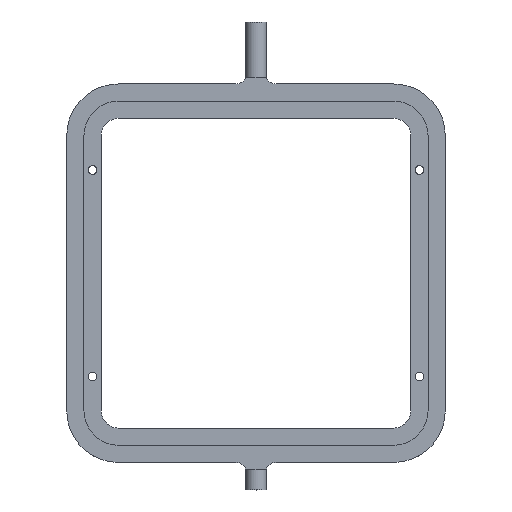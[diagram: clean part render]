
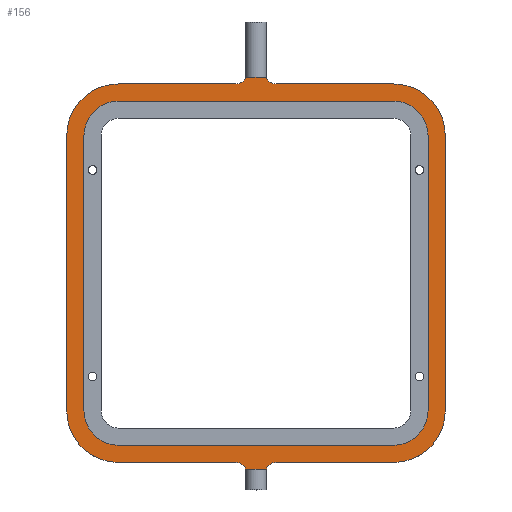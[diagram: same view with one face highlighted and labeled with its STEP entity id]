
A CAD part, top view. The second image highlights one B-rep face of the part: STEP entity #156.
In plain terms, the highlighted planar face has unit normal (0, 0, 1).
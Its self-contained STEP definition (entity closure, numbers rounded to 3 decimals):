
#76=FACE_BOUND('',#282,.T.);
#77=FACE_BOUND('',#283,.T.);
#118=CIRCLE('',#959,3.);
#119=CIRCLE('',#960,3.);
#120=CIRCLE('',#961,15.);
#121=CIRCLE('',#962,15.);
#122=CIRCLE('',#963,3.);
#123=CIRCLE('',#964,3.);
#124=CIRCLE('',#965,15.);
#125=CIRCLE('',#966,15.);
#126=CIRCLE('',#967,10.);
#127=CIRCLE('',#968,10.);
#128=CIRCLE('',#969,10.);
#129=CIRCLE('',#970,10.);
#156=ADVANCED_FACE('',(#76,#77),#205,.T.);
#205=PLANE('',#971);
#282=EDGE_LOOP('',(#428,#429,#430,#431,#432,#433,#434,#435,#436,#437,#438,
#439,#440,#441,#442,#443,#444,#445));
#283=EDGE_LOOP('',(#446,#447,#448,#449,#450,#451,#452,#453));
#428=ORIENTED_EDGE('',*,*,#650,.T.);
#429=ORIENTED_EDGE('',*,*,#736,.T.);
#430=ORIENTED_EDGE('',*,*,#737,.F.);
#431=ORIENTED_EDGE('',*,*,#738,.F.);
#432=ORIENTED_EDGE('',*,*,#739,.T.);
#433=ORIENTED_EDGE('',*,*,#652,.T.);
#434=ORIENTED_EDGE('',*,*,#740,.T.);
#435=ORIENTED_EDGE('',*,*,#731,.T.);
#436=ORIENTED_EDGE('',*,*,#741,.T.);
#437=ORIENTED_EDGE('',*,*,#662,.T.);
#438=ORIENTED_EDGE('',*,*,#742,.T.);
#439=ORIENTED_EDGE('',*,*,#743,.F.);
#440=ORIENTED_EDGE('',*,*,#744,.F.);
#441=ORIENTED_EDGE('',*,*,#745,.T.);
#442=ORIENTED_EDGE('',*,*,#656,.T.);
#443=ORIENTED_EDGE('',*,*,#746,.T.);
#444=ORIENTED_EDGE('',*,*,#728,.T.);
#445=ORIENTED_EDGE('',*,*,#747,.T.);
#446=ORIENTED_EDGE('',*,*,#735,.T.);
#447=ORIENTED_EDGE('',*,*,#748,.T.);
#448=ORIENTED_EDGE('',*,*,#719,.T.);
#449=ORIENTED_EDGE('',*,*,#749,.T.);
#450=ORIENTED_EDGE('',*,*,#722,.T.);
#451=ORIENTED_EDGE('',*,*,#750,.T.);
#452=ORIENTED_EDGE('',*,*,#724,.T.);
#453=ORIENTED_EDGE('',*,*,#751,.T.);
#568=VERTEX_POINT('',#1291);
#569=VERTEX_POINT('',#1293);
#570=VERTEX_POINT('',#1297);
#571=VERTEX_POINT('',#1298);
#574=VERTEX_POINT('',#1306);
#575=VERTEX_POINT('',#1307);
#580=VERTEX_POINT('',#1318);
#581=VERTEX_POINT('',#1320);
#624=VERTEX_POINT('',#1426);
#625=VERTEX_POINT('',#1428);
#626=VERTEX_POINT('',#1432);
#627=VERTEX_POINT('',#1434);
#628=VERTEX_POINT('',#1438);
#629=VERTEX_POINT('',#1439);
#630=VERTEX_POINT('',#1444);
#631=VERTEX_POINT('',#1446);
#632=VERTEX_POINT('',#1450);
#633=VERTEX_POINT('',#1452);
#634=VERTEX_POINT('',#1456);
#635=VERTEX_POINT('',#1458);
#636=VERTEX_POINT('',#1462);
#637=VERTEX_POINT('',#1464);
#638=VERTEX_POINT('',#1466);
#639=VERTEX_POINT('',#1471);
#640=VERTEX_POINT('',#1473);
#641=VERTEX_POINT('',#1475);
#650=EDGE_CURVE('',#569,#568,#772,.T.);
#652=EDGE_CURVE('',#570,#571,#774,.T.);
#656=EDGE_CURVE('',#574,#575,#778,.T.);
#662=EDGE_CURVE('',#581,#580,#784,.T.);
#719=EDGE_CURVE('',#625,#624,#813,.T.);
#722=EDGE_CURVE('',#627,#626,#816,.T.);
#724=EDGE_CURVE('',#628,#629,#818,.T.);
#728=EDGE_CURVE('',#631,#630,#822,.T.);
#731=EDGE_CURVE('',#633,#632,#825,.T.);
#735=EDGE_CURVE('',#634,#635,#829,.T.);
#736=EDGE_CURVE('',#568,#636,#118,.T.);
#737=EDGE_CURVE('',#637,#636,#830,.T.);
#738=EDGE_CURVE('',#638,#637,#831,.T.);
#739=EDGE_CURVE('',#638,#570,#119,.T.);
#740=EDGE_CURVE('',#571,#633,#120,.T.);
#741=EDGE_CURVE('',#632,#581,#121,.T.);
#742=EDGE_CURVE('',#580,#639,#122,.T.);
#743=EDGE_CURVE('',#640,#639,#832,.T.);
#744=EDGE_CURVE('',#641,#640,#833,.T.);
#745=EDGE_CURVE('',#641,#574,#123,.T.);
#746=EDGE_CURVE('',#575,#631,#124,.T.);
#747=EDGE_CURVE('',#630,#569,#125,.T.);
#748=EDGE_CURVE('',#635,#625,#126,.T.);
#749=EDGE_CURVE('',#624,#627,#127,.T.);
#750=EDGE_CURVE('',#626,#628,#128,.T.);
#751=EDGE_CURVE('',#629,#634,#129,.T.);
#772=LINE('',#1292,#844);
#774=LINE('',#1296,#846);
#778=LINE('',#1305,#850);
#784=LINE('',#1319,#856);
#813=LINE('',#1427,#885);
#816=LINE('',#1433,#888);
#818=LINE('',#1437,#890);
#822=LINE('',#1445,#894);
#825=LINE('',#1451,#897);
#829=LINE('',#1459,#901);
#830=LINE('',#1463,#902);
#831=LINE('',#1465,#903);
#832=LINE('',#1472,#904);
#833=LINE('',#1474,#905);
#844=VECTOR('',#1018,1.);
#846=VECTOR('',#1022,1.);
#850=VECTOR('',#1028,1.);
#856=VECTOR('',#1036,1.);
#885=VECTOR('',#1135,1.);
#888=VECTOR('',#1140,1.);
#890=VECTOR('',#1144,1.);
#894=VECTOR('',#1150,1.);
#897=VECTOR('',#1155,1.);
#901=VECTOR('',#1161,1.);
#902=VECTOR('',#1166,1.);
#903=VECTOR('',#1167,1.);
#904=VECTOR('',#1176,1.);
#905=VECTOR('',#1177,1.);
#959=AXIS2_PLACEMENT_3D('',#1461,#1164,#1165);
#960=AXIS2_PLACEMENT_3D('',#1467,#1168,#1169);
#961=AXIS2_PLACEMENT_3D('',#1468,#1170,#1171);
#962=AXIS2_PLACEMENT_3D('',#1469,#1172,#1173);
#963=AXIS2_PLACEMENT_3D('',#1470,#1174,#1175);
#964=AXIS2_PLACEMENT_3D('',#1476,#1178,#1179);
#965=AXIS2_PLACEMENT_3D('',#1477,#1180,#1181);
#966=AXIS2_PLACEMENT_3D('',#1478,#1182,#1183);
#967=AXIS2_PLACEMENT_3D('',#1479,#1184,#1185);
#968=AXIS2_PLACEMENT_3D('',#1480,#1186,#1187);
#969=AXIS2_PLACEMENT_3D('',#1481,#1188,#1189);
#970=AXIS2_PLACEMENT_3D('',#1482,#1190,#1191);
#971=AXIS2_PLACEMENT_3D('',#1483,#1192,#1193);
#1018=DIRECTION('',(1.,0.,0.));
#1022=DIRECTION('',(1.,0.,0.));
#1028=DIRECTION('',(-1.,0.,0.));
#1036=DIRECTION('',(-1.,0.,0.));
#1135=DIRECTION('',(0.,1.,0.));
#1140=DIRECTION('',(1.,0.,0.));
#1144=DIRECTION('',(0.,-1.,0.));
#1150=DIRECTION('',(0.,-1.,0.));
#1155=DIRECTION('',(0.,1.,0.));
#1161=DIRECTION('',(-1.,0.,0.));
#1164=DIRECTION('',(0.,0.,-1.));
#1165=DIRECTION('',(1.,0.,0.));
#1166=DIRECTION('',(-1.,0.,0.));
#1167=DIRECTION('',(-1.,0.,0.));
#1168=DIRECTION('',(0.,0.,-1.));
#1169=DIRECTION('',(1.,0.,0.));
#1170=DIRECTION('',(0.,0.,1.));
#1171=DIRECTION('',(1.,0.,0.));
#1172=DIRECTION('',(0.,0.,1.));
#1173=DIRECTION('',(1.,0.,0.));
#1174=DIRECTION('',(0.,0.,-1.));
#1175=DIRECTION('',(1.,0.,0.));
#1176=DIRECTION('',(1.,0.,0.));
#1177=DIRECTION('',(1.,0.,0.));
#1178=DIRECTION('',(0.,0.,-1.));
#1179=DIRECTION('',(1.,0.,0.));
#1180=DIRECTION('',(0.,0.,1.));
#1181=DIRECTION('',(1.,0.,0.));
#1182=DIRECTION('',(0.,0.,1.));
#1183=DIRECTION('',(1.,0.,0.));
#1184=DIRECTION('',(0.,0.,-1.));
#1185=DIRECTION('',(1.,0.,0.));
#1186=DIRECTION('',(0.,0.,-1.));
#1187=DIRECTION('',(1.,0.,0.));
#1188=DIRECTION('',(0.,0.,-1.));
#1189=DIRECTION('',(1.,0.,0.));
#1190=DIRECTION('',(0.,0.,-1.));
#1191=DIRECTION('',(1.,0.,0.));
#1192=DIRECTION('',(0.,0.,1.));
#1193=DIRECTION('',(1.,0.,0.));
#1291=CARTESIAN_POINT('',(444.172,95.,405.));
#1292=CARTESIAN_POINT('',(395.,95.,405.));
#1293=CARTESIAN_POINT('',(410.,95.,405.));
#1296=CARTESIAN_POINT('',(395.,95.,405.));
#1297=CARTESIAN_POINT('',(455.828,95.,405.));
#1298=CARTESIAN_POINT('',(490.,95.,405.));
#1305=CARTESIAN_POINT('',(505.,205.,405.));
#1306=CARTESIAN_POINT('',(444.172,205.,405.));
#1307=CARTESIAN_POINT('',(410.,205.,405.));
#1318=CARTESIAN_POINT('',(455.828,205.,405.));
#1319=CARTESIAN_POINT('',(505.,205.,405.));
#1320=CARTESIAN_POINT('',(490.,205.,405.));
#1426=CARTESIAN_POINT('',(400.,190.,405.));
#1427=CARTESIAN_POINT('',(400.,100.,405.));
#1428=CARTESIAN_POINT('',(400.,110.,405.));
#1432=CARTESIAN_POINT('',(490.,200.,405.));
#1433=CARTESIAN_POINT('',(400.,200.,405.));
#1434=CARTESIAN_POINT('',(410.,200.,405.));
#1437=CARTESIAN_POINT('',(500.,200.,405.));
#1438=CARTESIAN_POINT('',(500.,190.,405.));
#1439=CARTESIAN_POINT('',(500.,110.,405.));
#1444=CARTESIAN_POINT('',(395.,110.,405.));
#1445=CARTESIAN_POINT('',(395.,205.,405.));
#1446=CARTESIAN_POINT('',(395.,190.,405.));
#1450=CARTESIAN_POINT('',(505.,190.,405.));
#1451=CARTESIAN_POINT('',(505.,95.,405.));
#1452=CARTESIAN_POINT('',(505.,110.,405.));
#1456=CARTESIAN_POINT('',(490.,100.,405.));
#1458=CARTESIAN_POINT('',(410.,100.,405.));
#1459=CARTESIAN_POINT('',(500.,100.,405.));
#1461=CARTESIAN_POINT('',(444.172,92.,405.));
#1462=CARTESIAN_POINT('',(447.,93.,405.));
#1463=CARTESIAN_POINT('',(447.,93.,405.));
#1464=CARTESIAN_POINT('',(450.,93.,405.));
#1465=CARTESIAN_POINT('',(447.,93.,405.));
#1466=CARTESIAN_POINT('',(453.,93.,405.));
#1467=CARTESIAN_POINT('',(455.828,92.,405.));
#1468=CARTESIAN_POINT('',(490.,110.,405.));
#1469=CARTESIAN_POINT('',(490.,190.,405.));
#1470=CARTESIAN_POINT('',(455.828,208.,405.));
#1471=CARTESIAN_POINT('',(453.,207.,405.));
#1472=CARTESIAN_POINT('',(447.,207.,405.));
#1473=CARTESIAN_POINT('',(450.,207.,405.));
#1474=CARTESIAN_POINT('',(447.,207.,405.));
#1475=CARTESIAN_POINT('',(447.,207.,405.));
#1476=CARTESIAN_POINT('',(444.172,208.,405.));
#1477=CARTESIAN_POINT('',(410.,190.,405.));
#1478=CARTESIAN_POINT('',(410.,110.,405.));
#1479=CARTESIAN_POINT('',(410.,110.,405.));
#1480=CARTESIAN_POINT('',(410.,190.,405.));
#1481=CARTESIAN_POINT('',(490.,190.,405.));
#1482=CARTESIAN_POINT('',(490.,110.,405.));
#1483=CARTESIAN_POINT('',(0.,0.,405.));
